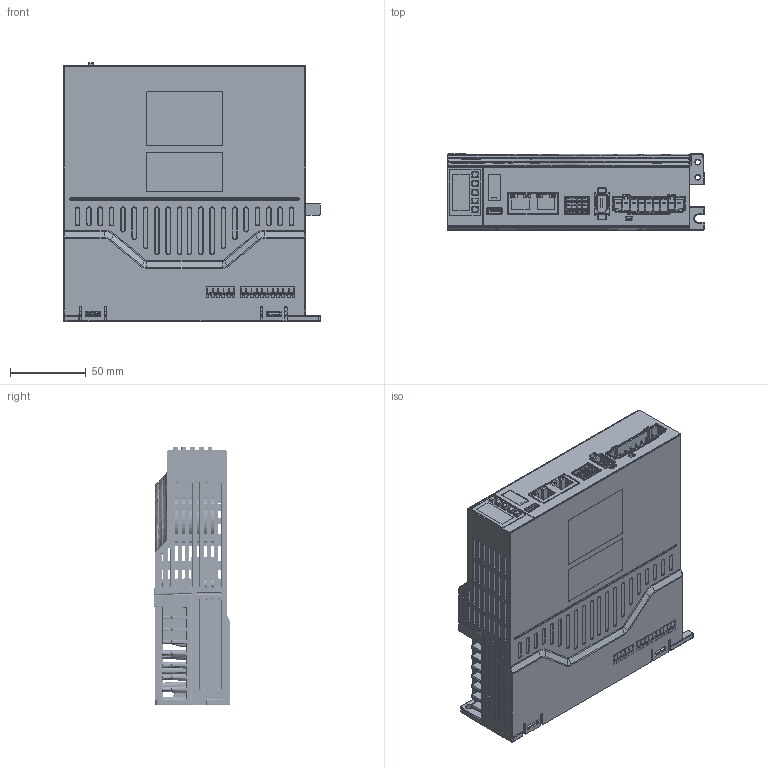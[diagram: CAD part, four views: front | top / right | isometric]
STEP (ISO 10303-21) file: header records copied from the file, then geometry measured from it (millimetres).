
FILE_DESCRIPTION((''),'2;1');
FILE_NAME('00-R9-M2-ASM_ASM','2025-02-08T',('samkoon'),(''),'PRO/ENGINEER BY PARAMETRIC TECHNOLOGY CORPORATION, 2015240','PRO/ENGINEER BY PARAMETRIC TECHNOLOGY CORPORATION, 2015240','');
FILE_SCHEMA(('AUTOMOTIVE_DESIGN { 1 2 10303 214 0 1 1 1 }'));
Products named in the file (20): M9-M2-DIZUO-20241226; PC-COVER; PC-COVER-01; PCB-R9-M2-B; TLCH-203-09P; USB-TEPY-C; JL15EDGKB-3_5-10P; JL15EDGKB-3_5-5P; PCB-UBS-1; SHUMAGUA-23; U255-051N-4BH70-FS; ANJIAN-45X45X3; ANJIAN-GUIJIAO; PCB-UBS_ASM; JL15EDGRHC-3_5-2X4P; 1394-6P-F1; WANGKOU-DOUBLE; PCBA-R9-M2-B_ASM; M9-M2-TOP-COVER-B; 00-R9-M2-ASM_ASM
Assembly tree (23 placements, depth 4):
  00-R9-M2-ASM_ASM
    M9-M2-DIZUO-20241226
    PC-COVER
    PC-COVER-01
    PCBA-R9-M2-B_ASM
      PCB-R9-M2-B
      TLCH-203-09P
      USB-TEPY-C
      JL15EDGKB-3_5-10P
      JL15EDGKB-3_5-5P
      PCB-UBS_ASM
        PCB-UBS-1
        SHUMAGUA-23
        U255-051N-4BH70-FS
        ANJIAN-45X45X3  x5
        ANJIAN-GUIJIAO
      JL15EDGRHC-3_5-2X4P
      1394-6P-F1
      WANGKOU-DOUBLE
    M9-M2-TOP-COVER-B
Bounding box: 170.02 x 50.49 x 170.93 mm (x, y, z)
Volume: 399207.7 mm3; surface area: 318311.6 mm2
Topology: 21 solids, 29 shells, 7531 faces, 19923 edges, 12462 vertices
Faces by surface type: plane 4825, cylinder 1783, bspline 380, cone 239, sphere 174, torus 118, extrusion 12
Entity records: 279183 total; most frequent: CARTESIAN_POINT 61988, ORIENTED_EDGE 39406, DIRECTION 35783, EDGE_CURVE 19703, VECTOR 14781, LINE 14769, VERTEX_POINT 12414, AXIS2_PLACEMENT_3D 10501
